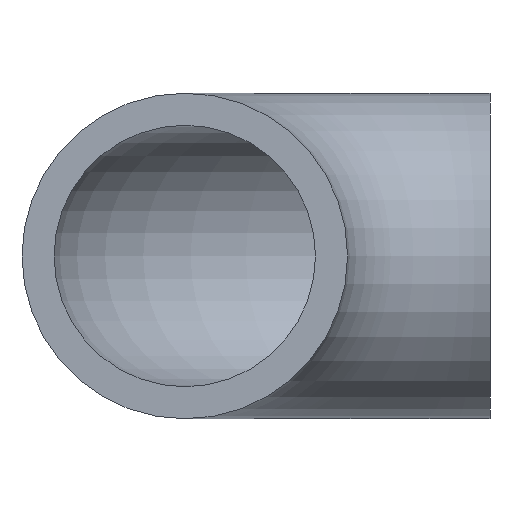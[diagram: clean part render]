
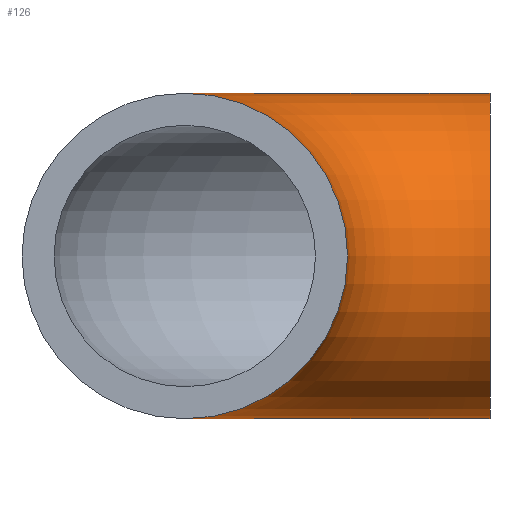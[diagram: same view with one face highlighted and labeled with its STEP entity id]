
A CAD part, front view. The second image highlights one B-rep face of the part: STEP entity #126.
In plain terms, the highlighted toroidal (fillet/blend) face has major radius 30 mm and minor radius 16 mm.
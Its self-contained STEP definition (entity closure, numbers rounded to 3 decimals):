
#15=TOROIDAL_SURFACE($,#142,30.,16.);
#21=FACE_BOUND($,#46,.T.);
#22=FACE_BOUND($,#47,.T.);
#31=B_SPLINE_CURVE_WITH_KNOTS($,3,(#200,#201,#202,#203,#204,#205,#206,#207,
#208,#209,#210,#211,#212,#213,#214,#215,#216,#217,#218,#219,#220,#221,#222,
#223,#224,#225,#226,#227,#228,#229,#230,#231,#232,#233,#234,#235,#236,#237,
#238,#239,#240,#241,#242,#243,#244,#245),.UNSPECIFIED.,.T.,.F.,(4,2,2,2,
2,2,2,2,2,2,2,2,2,2,2,2,2,2,2,2,2,2,4),(-1.253,-1.208,
-1.161,-1.092,-1.013,-0.972,
-0.943,-0.915,-0.878,-0.812,
-0.735,-0.655,-0.579,-0.506,
-0.439,-0.373,-0.337,-0.309,
-0.279,-0.237,-0.158,-0.08,
0.),.UNSPECIFIED.);
#35=FACE_OUTER_BOUND($,#45,.T.);
#45=EDGE_LOOP($,(#94));
#46=EDGE_LOOP($,(#95));
#47=EDGE_LOOP($,(#96));
#63=CIRCLE($,#143,16.);
#64=CIRCLE($,#144,16.);
#70=VERTEX_POINT($,#199);
#73=VERTEX_POINT($,#253);
#74=VERTEX_POINT($,#255);
#80=EDGE_CURVE($,#70,#70,#31,.T.);
#83=EDGE_CURVE($,#73,#73,#63,.T.);
#84=EDGE_CURVE($,#74,#74,#64,.T.);
#94=ORIENTED_EDGE($,*,*,#83,.F.);
#95=ORIENTED_EDGE($,*,*,#84,.T.);
#96=ORIENTED_EDGE($,*,*,#80,.T.);
#126=ADVANCED_FACE($,(#35,#21,#22),#15,.T.);
#142=AXIS2_PLACEMENT_3D($,#252,#169,#170);
#143=AXIS2_PLACEMENT_3D($,#254,#171,#172);
#144=AXIS2_PLACEMENT_3D($,#256,#173,#174);
#169=DIRECTION('center_axis',(0.,0.,-1.));
#170=DIRECTION('ref_axis',(-1.,0.,0.));
#171=DIRECTION('center_axis',(0.,-1.,0.));
#172=DIRECTION('ref_axis',(1.,0.,0.));
#173=DIRECTION('center_axis',(-1.,0.,0.));
#174=DIRECTION('ref_axis',(0.,-1.,0.));
#199=CARTESIAN_POINT('',(-1.095,103.898,0.));
#200=CARTESIAN_POINT('Ctrl Pts',(-1.095,103.898,0.));
#201=CARTESIAN_POINT('Ctrl Pts',(-1.095,103.898,0.149));
#202=CARTESIAN_POINT('Ctrl Pts',(-1.106,103.885,0.298));
#203=CARTESIAN_POINT('Ctrl Pts',(-1.15,103.834,0.596));
#204=CARTESIAN_POINT('Ctrl Pts',(-1.184,103.794,0.743));
#205=CARTESIAN_POINT('Ctrl Pts',(-1.295,103.665,1.09));
#206=CARTESIAN_POINT('Ctrl Pts',(-1.385,103.561,1.279));
#207=CARTESIAN_POINT('Ctrl Pts',(-1.622,103.296,1.622));
#208=CARTESIAN_POINT('Ctrl Pts',(-1.773,103.13,1.765));
#209=CARTESIAN_POINT('Ctrl Pts',(-2.028,102.859,1.91));
#210=CARTESIAN_POINT('Ctrl Pts',(-2.12,102.763,1.947));
#211=CARTESIAN_POINT('Ctrl Pts',(-2.281,102.598,1.985));
#212=CARTESIAN_POINT('Ctrl Pts',(-2.349,102.529,1.993));
#213=CARTESIAN_POINT('Ctrl Pts',(-2.484,102.393,1.996));
#214=CARTESIAN_POINT('Ctrl Pts',(-2.551,102.327,1.991));
#215=CARTESIAN_POINT('Ctrl Pts',(-2.705,102.176,1.963));
#216=CARTESIAN_POINT('Ctrl Pts',(-2.791,102.093,1.936));
#217=CARTESIAN_POINT('Ctrl Pts',(-3.027,101.869,1.83));
#218=CARTESIAN_POINT('Ctrl Pts',(-3.171,101.736,1.728));
#219=CARTESIAN_POINT('Ctrl Pts',(-3.453,101.481,1.441));
#220=CARTESIAN_POINT('Ctrl Pts',(-3.584,101.366,1.247));
#221=CARTESIAN_POINT('Ctrl Pts',(-3.786,101.191,0.799));
#222=CARTESIAN_POINT('Ctrl Pts',(-3.854,101.133,0.547));
#223=CARTESIAN_POINT('Ctrl Pts',(-3.91,101.085,0.032));
#224=CARTESIAN_POINT('Ctrl Pts',(-3.901,101.093,-0.226));
#225=CARTESIAN_POINT('Ctrl Pts',(-3.811,101.169,-0.708));
#226=CARTESIAN_POINT('Ctrl Pts',(-3.736,101.233,-0.929));
#227=CARTESIAN_POINT('Ctrl Pts',(-3.538,101.406,-1.314));
#228=CARTESIAN_POINT('Ctrl Pts',(-3.421,101.51,-1.477));
#229=CARTESIAN_POINT('Ctrl Pts',(-3.155,101.751,-1.741));
#230=CARTESIAN_POINT('Ctrl Pts',(-3.009,101.885,-1.841));
#231=CARTESIAN_POINT('Ctrl Pts',(-2.774,102.11,-1.942));
#232=CARTESIAN_POINT('Ctrl Pts',(-2.689,102.191,-1.967));
#233=CARTESIAN_POINT('Ctrl Pts',(-2.538,102.34,-1.992));
#234=CARTESIAN_POINT('Ctrl Pts',(-2.471,102.406,-1.997));
#235=CARTESIAN_POINT('Ctrl Pts',(-2.336,102.541,-1.992));
#236=CARTESIAN_POINT('Ctrl Pts',(-2.268,102.611,-1.982));
#237=CARTESIAN_POINT('Ctrl Pts',(-2.103,102.78,-1.941));
#238=CARTESIAN_POINT('Ctrl Pts',(-2.009,102.879,-1.902));
#239=CARTESIAN_POINT('Ctrl Pts',(-1.754,103.151,-1.749));
#240=CARTESIAN_POINT('Ctrl Pts',(-1.606,103.313,-1.604));
#241=CARTESIAN_POINT('Ctrl Pts',(-1.36,103.59,-1.236));
#242=CARTESIAN_POINT('Ctrl Pts',(-1.263,103.702,-1.017));
#243=CARTESIAN_POINT('Ctrl Pts',(-1.13,103.857,-0.531));
#244=CARTESIAN_POINT('Ctrl Pts',(-1.095,103.898,-0.267));
#245=CARTESIAN_POINT('Ctrl Pts',(-1.095,103.898,0.));
#252=CARTESIAN_POINT('Origin',(30.,70.,0.));
#253=CARTESIAN_POINT('',(-16.,70.,0.));
#254=CARTESIAN_POINT('Origin',(0.,70.,0.));
#255=CARTESIAN_POINT('',(30.,116.,0.));
#256=CARTESIAN_POINT('Origin',(30.,100.,0.));
